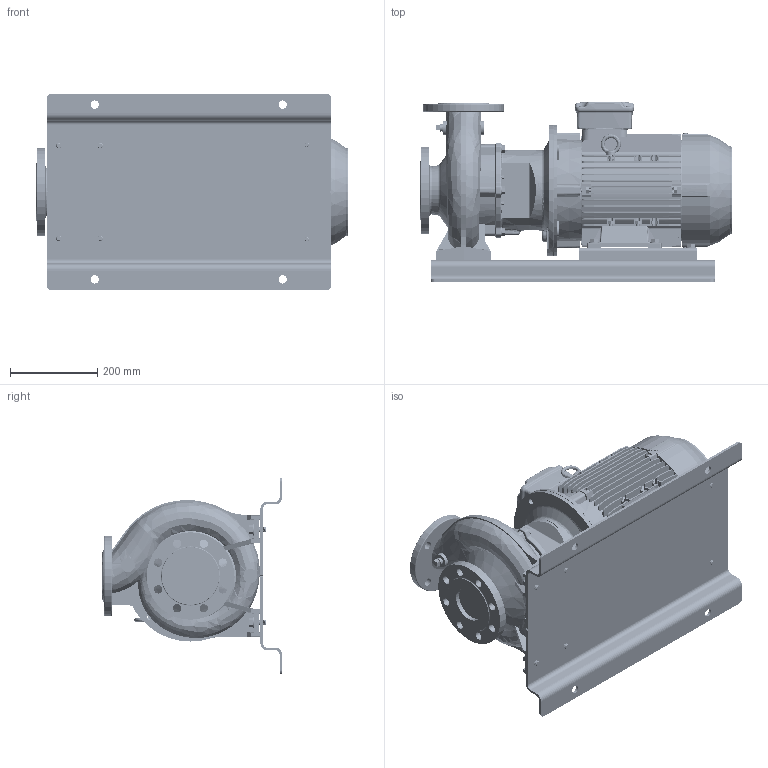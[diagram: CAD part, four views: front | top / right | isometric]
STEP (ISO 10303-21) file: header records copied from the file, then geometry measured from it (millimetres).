
FILE_DESCRIPTION (( 'STEP AP214' ), '1' );
FILE_NAME ('GSD2 65-160_7.5_(132S)_W21_BP.STEP', '2024-07-30T23:28:02', ( '' ), ( '' ), 'SwSTEP 2.0', 'SolidWorks 2019', '' );
FILE_SCHEMA (( 'AUTOMOTIVE_DESIGN' ));
Length unit declared in the file: millimetre
Products named in the file (20): Parametric bolt and washer_SFT-A275B; Parametric bolt and washer_SFT-A299B; Parametric bolt_SFT-A253B; 140_178 x 28 - 271472025; Parametric bolt_SFT-A299B; GSD2  65-160_7.5_(132S)_W21_BP; N4S4 GSDA-442 F1-1832913-00; Parametric bolt and washer_SFT-A253B; Parametric Flat Washer_M10; Parametric bolt_SFT-A257B; 65-160-132S_______; 132S ALIE3_W21T_B35; Parametric Flat Washer_M12
Assembly tree (35 placements, depth 3):
  GSD2  65-160_7.5_(132S)_W21_BP
    65-160-132S_______
    N4S4 GSDA-442 F1-1832913-00
    140_178 x 28 - 271472025  x2
    Parametric bolt and washer_SFT-A275B
      Parametric bolt_SFT-A257B
      Parametric Flat Washer_M10
    Parametric bolt and washer_SFT-A275B
      Parametric bolt_SFT-A257B
      Parametric Flat Washer_M10
    Parametric bolt and washer_SFT-A299B
      Parametric bolt_SFT-A299B
      Parametric Flat Washer_M12
    Parametric bolt and washer_SFT-A299B
      Parametric bolt_SFT-A299B
      Parametric Flat Washer_M12
    Parametric bolt and washer_SFT-A299B
      Parametric bolt_SFT-A299B
      Parametric Flat Washer_M12
    Parametric bolt and washer_SFT-A299B
      Parametric bolt_SFT-A299B
      Parametric Flat Washer_M12
    Parametric bolt and washer_SFT-A253B
      Parametric bolt_SFT-A253B
      Parametric Flat Washer_M10
    Parametric bolt and washer_SFT-A253B
      Parametric bolt_SFT-A253B
      Parametric Flat Washer_M10
    Parametric bolt and washer_SFT-A253B
      Parametric bolt_SFT-A253B
      Parametric Flat Washer_M10
    Parametric bolt and washer_SFT-A253B
      Parametric bolt_SFT-A253B
      Parametric Flat Washer_M10
    132S ALIE3_W21T_B35
Bounding box: 714.8 x 413 x 450 mm (x, y, z)
Volume: 31489185.4 mm3; surface area: 2659357 mm2
Topology: 28 solids, 28 shells, 4746 faces, 12292 edges, 7937 vertices
Faces by surface type: plane 2866, cylinder 1111, torus 280, bspline 252, cone 205, sphere 32
Entity records: 167599 total; most frequent: CARTESIAN_POINT 63076, ORIENTED_EDGE 22348, DIRECTION 20367, EDGE_CURVE 11174, LINE 7591, VECTOR 7591, VERTEX_POINT 7221, AXIS2_PLACEMENT_3D 6388
